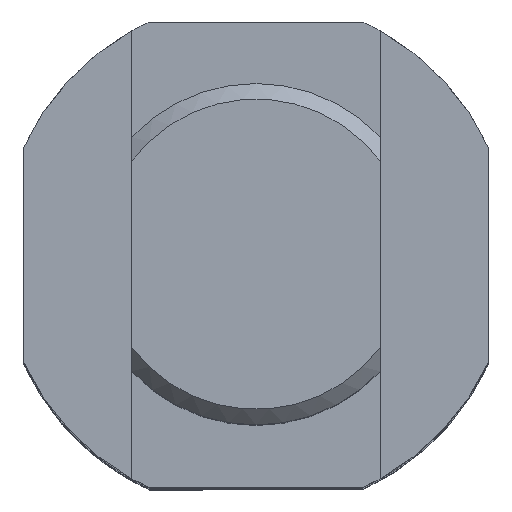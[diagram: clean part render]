
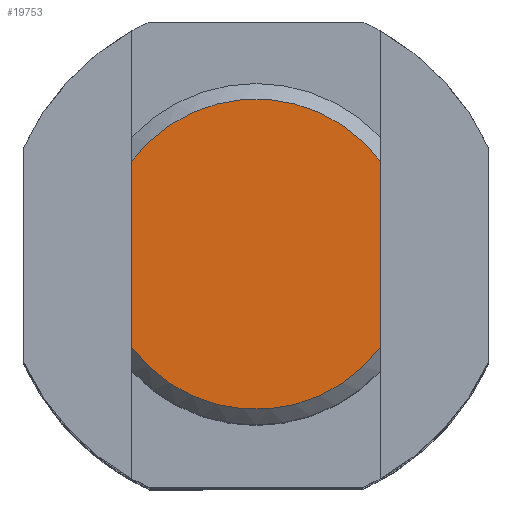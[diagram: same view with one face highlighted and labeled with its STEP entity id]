
A CAD part, top view. The second image highlights one B-rep face of the part: STEP entity #19753.
In plain terms, the highlighted planar face has unit normal (0, 0, 1) as drawn and (1, 0, 0) by its records, which use the part's own axes.
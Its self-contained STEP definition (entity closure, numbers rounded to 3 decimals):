
#223 = ORIENTED_EDGE ( 'NONE', *, *, #20549, .T. ) ;
#576 = ORIENTED_EDGE ( 'NONE', *, *, #839, .T. ) ;
#839 = EDGE_CURVE ( 'NONE', #13389, #8168, #11475, .T. ) ;
#970 = VECTOR ( 'NONE', #5941, 1000. ) ;
#1775 = CARTESIAN_POINT ( 'NONE',  ( 45.5, 11., -8. ) ) ;
#1816 = AXIS2_PLACEMENT_3D ( 'NONE', #12211, #2626, #12117 ) ;
#1863 = CARTESIAN_POINT ( 'NONE',  ( 45.5, 6., 8. ) ) ;
#2626 = DIRECTION ( 'NONE',  ( -1., 0., 0. ) ) ;
#2948 = CIRCLE ( 'NONE', #7578, 10. ) ;
#3419 = EDGE_CURVE ( 'NONE', #6266, #11219, #20028, .T. ) ;
#5941 = DIRECTION ( 'NONE',  ( 0., -1., 0. ) ) ;
#6266 = VERTEX_POINT ( 'NONE', #1863 ) ;
#6981 = CARTESIAN_POINT ( 'NONE',  ( 45.5, -6., -8. ) ) ;
#7578 = AXIS2_PLACEMENT_3D ( 'NONE', #12769, #19216, #19115 ) ;
#8117 = DIRECTION ( 'NONE',  ( 0., 1., 0. ) ) ;
#8168 = VERTEX_POINT ( 'NONE', #19795 ) ;
#9496 = AXIS2_PLACEMENT_3D ( 'NONE', #12882, #14554, #19229 ) ;
#10550 = PLANE ( 'NONE',  #1816 ) ;
#10680 = ORIENTED_EDGE ( 'NONE', *, *, #12023, .T. ) ;
#11219 = VERTEX_POINT ( 'NONE', #15389 ) ;
#11475 = LINE ( 'NONE', #1775, #19534 ) ;
#12023 = EDGE_CURVE ( 'NONE', #11219, #13389, #2948, .T. ) ;
#12117 = DIRECTION ( 'NONE',  ( 0., 0., 1. ) ) ;
#12211 = CARTESIAN_POINT ( 'NONE',  ( 45.5, 11., 0. ) ) ;
#12580 = ORIENTED_EDGE ( 'NONE', *, *, #3419, .T. ) ;
#12769 = CARTESIAN_POINT ( 'NONE',  ( 45.5, 0., 0. ) ) ;
#12882 = CARTESIAN_POINT ( 'NONE',  ( 45.5, 0., 0. ) ) ;
#13389 = VERTEX_POINT ( 'NONE', #6981 ) ;
#13878 = FACE_OUTER_BOUND ( 'NONE', #15856, .T. ) ;
#14501 = CIRCLE ( 'NONE', #9496, 10. ) ;
#14554 = DIRECTION ( 'NONE',  ( 1., 0., 0. ) ) ;
#15389 = CARTESIAN_POINT ( 'NONE',  ( 45.5, -6., 8. ) ) ;
#15856 = EDGE_LOOP ( 'NONE', ( #576, #223, #12580, #10680 ) ) ;
#18680 = CARTESIAN_POINT ( 'NONE',  ( 45.5, 11., 8. ) ) ;
#19115 = DIRECTION ( 'NONE',  ( 0., 0., 1. ) ) ;
#19216 = DIRECTION ( 'NONE',  ( 1., 0., 0. ) ) ;
#19229 = DIRECTION ( 'NONE',  ( 0., 0., 1. ) ) ;
#19534 = VECTOR ( 'NONE', #8117, 1000. ) ;
#19753 = ADVANCED_FACE ( 'NONE', ( #13878 ), #10550, .F. ) ;
#19795 = CARTESIAN_POINT ( 'NONE',  ( 45.5, 6., -8. ) ) ;
#20028 = LINE ( 'NONE', #18680, #970 ) ;
#20549 = EDGE_CURVE ( 'NONE', #8168, #6266, #14501, .T. ) ;
